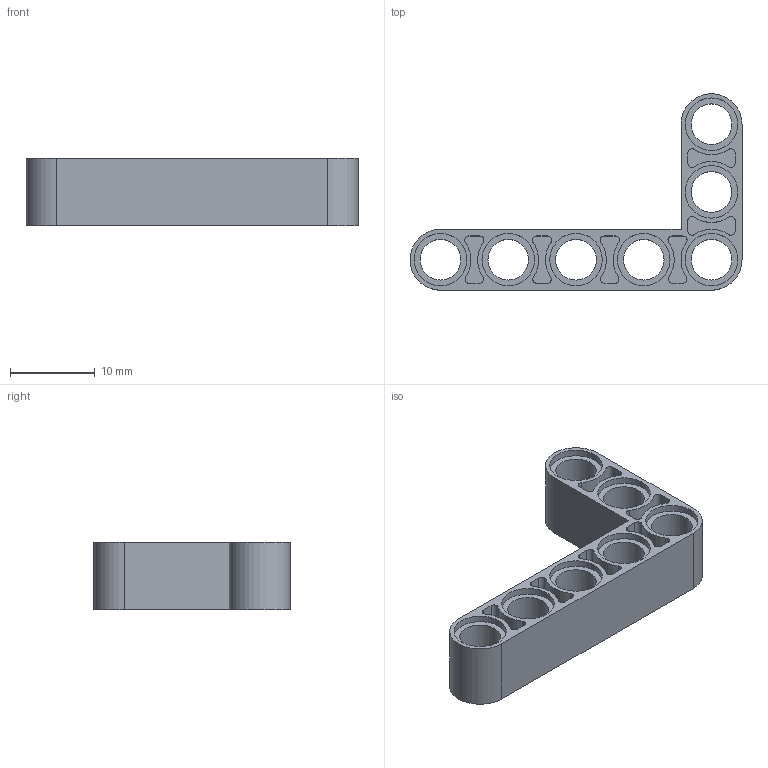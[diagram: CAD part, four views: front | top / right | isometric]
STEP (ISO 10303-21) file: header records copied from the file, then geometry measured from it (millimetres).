
FILE_DESCRIPTION(/* description */ ('Unknown'),/* implementation_level */ '2;1');
FILE_NAME(/* name */ 'Ye_4144022_AVV',/* time_stamp */ '2025-07-22T00:08:00+02:00',/* author */ ('Unknown'),/* organization */ ('Unknown'),/* preprocessor_version */ 'ST-DEVELOPER v19.4',/* originating_system */ 'Solid Edge',/* authorisation */ 'Unknown');
FILE_SCHEMA (('AUTOMOTIVE_DESIGN {1 0 10303 214 3 1 1}'));
Length unit declared in the file: millimetre
Products named in the file (1): Ye_4144022_AVV
Bounding box: 39.2 x 23.2 x 8 mm (x, y, z)
Volume: 1620.1 mm3; surface area: 2914.4 mm2
Topology: 1 solids, 1 shells, 152 faces, 372 edges, 248 vertices
Faces by surface type: cylinder 96, plane 56
Full cylindrical faces by diameter (mm): 4.8 x7, 6.2 x14
Entity records: 4521 total; most frequent: DIRECTION 849, CARTESIAN_POINT 752, ORIENTED_EDGE 702, EDGE_CURVE 351, AXIS2_PLACEMENT_3D 345, VERTEX_POINT 248, EDGE_LOOP 213, FACE_BOUND 213
